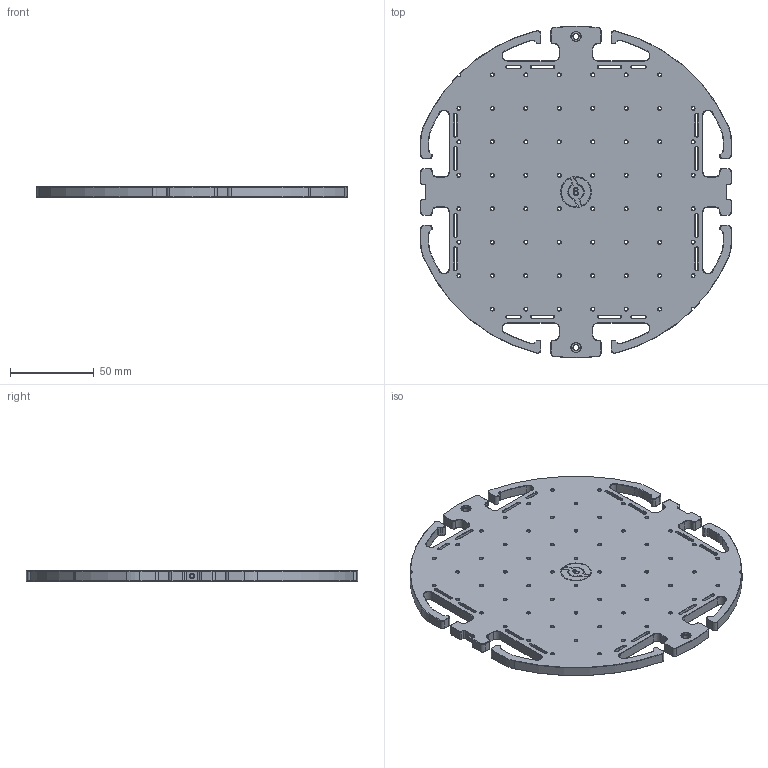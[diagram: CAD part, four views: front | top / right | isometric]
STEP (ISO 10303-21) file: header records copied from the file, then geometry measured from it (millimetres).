
FILE_DESCRIPTION (( 'STEP AP214' ), '1' );
FILE_NAME ('BR-103131-800_Rev_5.step', '2024-12-10T18:59:40', ( '' ), ( '' ), 'SwSTEP 2.0', 'SolidWorks 2024', '' );
FILE_SCHEMA (( 'AUTOMOTIVE_DESIGN' ));
Length unit declared in the file: millimetre
Products named in the file (1): BR-103131-800_Rev_5
Bounding box: 185.78 x 198.3 x 6 mm (x, y, z)
Volume: 158820.2 mm3; surface area: 65714.6 mm2
Topology: 1 solids, 1 shells, 1183 faces, 2775 edges, 1603 vertices
Faces by surface type: cone 558, plane 321, cylinder 279, bspline 25
Entity records: 35956 total; most frequent: CARTESIAN_POINT 8228, DIRECTION 6115, ORIENTED_EDGE 5550, EDGE_CURVE 2775, AXIS2_PLACEMENT_3D 2294, VERTEX_POINT 1603, VECTOR 1527, LINE 1527
